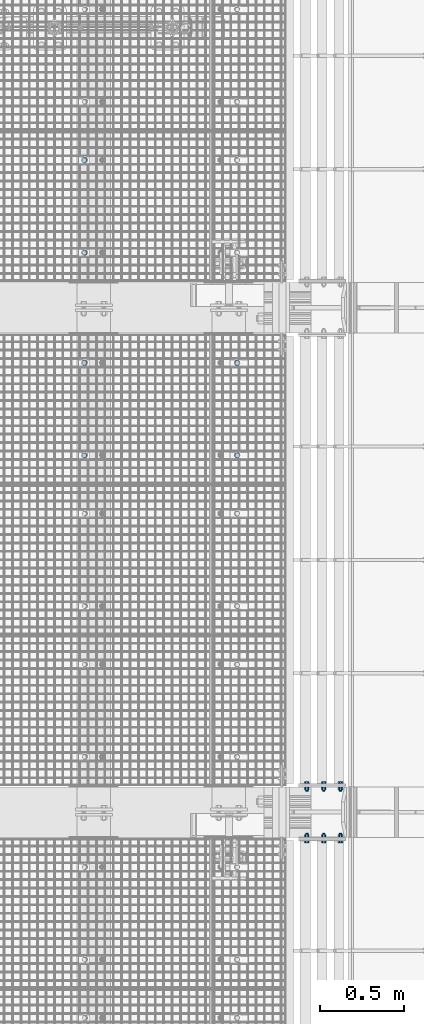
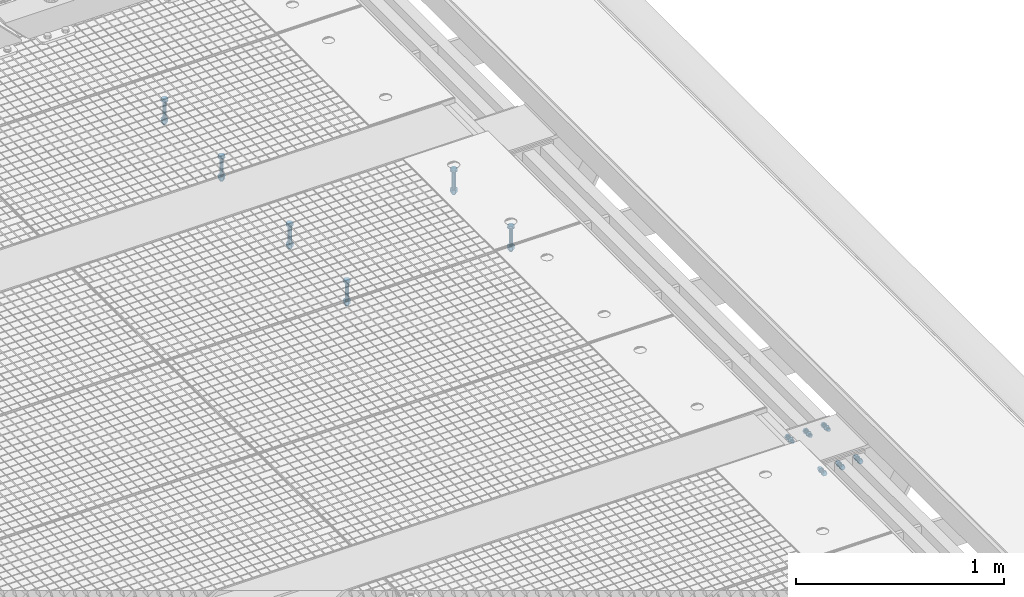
# One storey, part 53 of 1530: 5 mechanical fasteners.
"""IFC2X3 building model written with IfcOpenShell, lengths in millimetres."""

from ifc_helpers import new_model, si_unit, frame, origin_with_axes, place, context, subcontext, project, spatial, faceted_brep, source, transform, mapped, material, type_object, element, save


model = new_model("IFC2X3")

# Units and contexts
model_context = context("Model", 3, precision=1e-05, world=origin_with_axes())
body_context = subcontext(model_context, "Body", "Model", "MODEL_VIEW")
ifc_project = project(units=[si_unit("LENGTHUNIT", "METRE", prefix="MILLI"), si_unit("AREAUNIT", "SQUARE_METRE"), si_unit("VOLUMEUNIT", "CUBIC_METRE"), si_unit("MASSUNIT", "GRAM", prefix="KILO"), si_unit("TIMEUNIT", "SECOND"), si_unit("PLANEANGLEUNIT", "RADIAN"), si_unit("SOLIDANGLEUNIT", "STERADIAN"), si_unit("THERMODYNAMICTEMPERATUREUNIT", "DEGREE_CELSIUS"), si_unit("LUMINOUSINTENSITYUNIT", "LUMEN")], contexts=[model_context])

# Site, building, storey
site_placement = place(None, origin_with_axes())
site = spatial("IfcSite", under=ifc_project, at=site_placement, Name="Brattvåg", CompositionType="ELEMENT")
building_placement = place(site_placement, origin_with_axes())
building = spatial("IfcBuilding", under=site, at=building_placement, Name="Undefined", CompositionType="ELEMENT")
storey_placement = place(building_placement, origin_with_axes())
storey = spatial("IfcBuildingStorey", under=building, at=storey_placement, Name="Undefined", CompositionType="ELEMENT", Elevation=0.0)

# Mechanical fasteners
ifc_material = material(Name="8")
mechanical_fastener_type = type_object("IfcMechanicalFastenerType", Name="Bolt assembly")
shared_shape_1 = source(origin_with_axes(), body_context, "Body", "Brep", [
    faceted_brep([(17.3205080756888, -10.5, 0.0), (8.66025403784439, -10.5, 15.0), (-8.66025403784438, -10.5, 15.0), (-17.3205080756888, -10.5, 2.12115047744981e-15), (-8.66025403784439, -10.5, -15.0), (8.66025403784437, -10.5, -15.0), (8.66025403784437, 2.0, -15.0), (-8.66025403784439, 2.0, -15.0), (-17.3205080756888, 2.0, 2.12115047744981e-15), (-8.66025403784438, 2.0, 15.0), (8.66025403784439, 2.0, 15.0), (17.3205080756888, 2.0, 0.0), (10.0, 2.0, 0.0), (8.66025403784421, 2.0, 5.0000000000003), (4.9999999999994, 2.0, 8.66025403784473), (-1.03633598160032e-12, 2.0, 10.0), (-5.00000000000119, 2.0, 8.6602540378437), (-8.66025403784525, 2.0, 4.99999999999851), (-10.0, 2.0, -2.07267196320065e-12), (-8.66025403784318, 2.0, -5.00000000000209), (-4.99999999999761, 2.0, -8.66025403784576), (3.09790571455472e-12, 2.0, -10.0), (5.00000000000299, 2.0, -8.66025403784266), (8.66025403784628, 2.0, -4.99999999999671), (8.66025403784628, 142.0, -4.99999999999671), (5.00000000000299, 142.0, -8.66025403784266), (3.09790571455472e-12, 142.0, -10.0), (-4.99999999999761, 142.0, -8.66025403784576), (-8.66025403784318, 142.0, -5.00000000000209), (-10.0, 142.0, -2.07267196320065e-12), (-8.66025403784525, 142.0, 4.99999999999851), (-5.00000000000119, 142.0, 8.6602540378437), (-1.03633598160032e-12, 142.0, 10.0), (4.9999999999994, 142.0, 8.66025403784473), (8.66025403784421, 142.0, 5.0000000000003), (10.0, 142.0, 0.0), (18.5, 2.0, 0.0), (16.0214699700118, 2.0, 9.25000000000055), (9.2499999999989, 2.0, 16.0214699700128), (-1.9172215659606e-12, 2.0, 18.5), (-9.25000000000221, 2.0, 16.0214699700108), (-16.0214699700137, 2.0, 9.24999999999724), (-18.5, 2.0, -3.83444313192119e-12), (-16.0214699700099, 2.0, -9.25000000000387), (-9.24999999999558, 2.0, -16.0214699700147), (5.73112557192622e-12, 2.0, -18.5), (9.25000000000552, 2.0, -16.0214699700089), (16.0214699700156, 2.0, -9.24999999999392), (16.0214699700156, 5.0, -9.24999999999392), (9.25000000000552, 5.0, -16.0214699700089), (5.73112557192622e-12, 5.0, -18.5), (-9.24999999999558, 5.0, -16.0214699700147), (-16.0214699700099, 5.0, -9.25000000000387), (-18.5, 5.0, -3.83444313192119e-12), (-16.0214699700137, 5.0, 9.24999999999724), (-9.25000000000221, 5.0, 16.0214699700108), (-1.9172215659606e-12, 5.0, 18.5), (9.2499999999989, 5.0, 16.0214699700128), (16.0214699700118, 5.0, 9.25000000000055), (18.5, 5.0, 0.0), (18.5, 109.998931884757, 0.0), (16.0214699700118, 109.998931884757, 9.25000000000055), (9.2499999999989, 109.998931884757, 16.0214699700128), (-1.9172215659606e-12, 109.998931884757, 18.5), (-9.25000000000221, 109.998931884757, 16.0214699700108), (-16.0214699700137, 109.998931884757, 9.24999999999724), (-18.5, 109.998931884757, -3.83444313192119e-12), (-16.0214699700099, 109.998931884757, -9.25000000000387), (-9.24999999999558, 109.998931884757, -16.0214699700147), (5.73112557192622e-12, 109.998931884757, -18.5), (9.25000000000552, 109.998931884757, -16.0214699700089), (16.0214699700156, 109.998931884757, -9.24999999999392), (16.0214699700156, 112.998931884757, -9.24999999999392), (9.25000000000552, 112.998931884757, -16.0214699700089), (5.73112557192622e-12, 112.998931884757, -18.5), (-9.24999999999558, 112.998931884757, -16.0214699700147), (-16.0214699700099, 112.998931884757, -9.25000000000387), (-18.5, 112.998931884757, -3.83444313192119e-12), (-16.0214699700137, 112.998931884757, 9.24999999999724), (-9.25000000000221, 112.998931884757, 16.0214699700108), (-1.9172215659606e-12, 112.998931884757, 18.5), (9.2499999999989, 112.998931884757, 16.0214699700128), (16.0214699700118, 112.998931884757, 9.25000000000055), (18.5, 112.998931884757, 0.0), (17.3205080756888, 112.998931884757, 0.0), (8.66025403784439, 112.998931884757, 15.0), (-8.66025403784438, 112.998931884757, 15.0), (-17.3205080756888, 112.998931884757, 2.12115047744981e-15), (-8.66025403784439, 112.998931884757, -15.0), (8.66025403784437, 112.998931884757, -15.0), (8.66025403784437, 130.998931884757, -15.0), (-8.66025403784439, 130.998931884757, -15.0), (-17.3205080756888, 130.998931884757, 2.12115047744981e-15), (-8.66025403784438, 130.998931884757, 15.0), (8.66025403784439, 130.998931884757, 15.0), (17.3205080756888, 130.998931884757, 0.0)], [[[0, 1, 2, 3, 4, 5]], [[6, 7, 8, 9, 10, 11]], [[0, 11, 10, 1]], [[1, 10, 9, 2]], [[2, 9, 8, 3]], [[3, 8, 7, 4]], [[4, 7, 6, 5]], [[5, 6, 11, 0]], [[12, 13, 14, 15, 16, 17, 18, 19, 20, 21, 22, 23]], [[24, 25, 26, 27, 28, 29, 30, 31, 32, 33, 34, 35]], [[12, 35, 34, 13]], [[13, 34, 33, 14]], [[14, 33, 32, 15]], [[15, 32, 31, 16]], [[16, 31, 30, 17]], [[17, 30, 29, 18]], [[18, 29, 28, 19]], [[19, 28, 27, 20]], [[20, 27, 26, 21]], [[21, 26, 25, 22]], [[22, 25, 24, 23]], [[23, 24, 35, 12]], [[36, 37, 38, 39, 40, 41, 42, 43, 44, 45, 46, 47]], [[48, 49, 50, 51, 52, 53, 54, 55, 56, 57, 58, 59]], [[36, 59, 58, 37]], [[37, 58, 57, 38]], [[38, 57, 56, 39]], [[39, 56, 55, 40]], [[40, 55, 54, 41]], [[41, 54, 53, 42]], [[42, 53, 52, 43]], [[43, 52, 51, 44]], [[44, 51, 50, 45]], [[45, 50, 49, 46]], [[46, 49, 48, 47]], [[47, 48, 59, 36]], [[60, 61, 62, 63, 64, 65, 66, 67, 68, 69, 70, 71]], [[72, 73, 74, 75, 76, 77, 78, 79, 80, 81, 82, 83]], [[60, 83, 82, 61]], [[61, 82, 81, 62]], [[62, 81, 80, 63]], [[63, 80, 79, 64]], [[64, 79, 78, 65]], [[65, 78, 77, 66]], [[66, 77, 76, 67]], [[67, 76, 75, 68]], [[68, 75, 74, 69]], [[69, 74, 73, 70]], [[70, 73, 72, 71]], [[71, 72, 83, 60]], [[84, 85, 86, 87, 88, 89]], [[90, 91, 92, 93, 94, 95]], [[84, 95, 94, 85]], [[85, 94, 93, 86]], [[86, 93, 92, 87]], [[87, 92, 91, 88]], [[88, 91, 90, 89]], [[89, 90, 95, 84]]]),
])
for number, where, z_axis, x_axis, name in (
    (1, (15696.2016601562, 6327.99964141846, -25.0), (-1.0, 1.99999855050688e-09, 0.0), (0.0, 1.0, 0.0), "Bolt assembly"),
    (2, (16607.7533454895, 5122.00118255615, -25.0), (-1.0, 1.99999855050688e-09, 0.0), (0.0, 1.0, 0.0), "Bolt assembly"),
    (3, (15696.2016601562, 5121.99964141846, -25.0), (-1.0, 1.99999855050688e-09, 0.0), (0.0, 1.0, 0.0), "Bolt assembly"),
):
    element("IfcMechanicalFastener", number, at=place(storey_placement, frame(where, z_axis=z_axis, x_axis=x_axis)), inside=storey, type_object=mechanical_fastener_type, material=ifc_material, Name=name, NominalDiameter=20.0, NominalLength=140.0, context=body_context, shape_type="MappedRepresentation", body=[
        mapped(shared_shape_1, transform((0.0, 0.0, 0.0))),
        mapped(shared_shape_1, transform((549.999999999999, 0.0, 0.0))),
    ])
shared_shape_2 = source(origin_with_axes(), body_context, "Body", "Brep", [
    faceted_brep([(13.856406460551, -12.999526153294, 0.0), (6.92820323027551, -12.999526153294, 12.0), (-6.92820323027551, -12.999526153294, 12.0), (-13.856406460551, -12.999526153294, 1.69692038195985e-15), (-6.92820323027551, -12.999526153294, -12.0), (6.9282032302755, -12.999526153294, -12.0), (6.9282032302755, -2.99952615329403, -12.0), (-6.92820323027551, -2.99952615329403, -12.0), (-13.856406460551, -2.99952615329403, 1.69692038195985e-15), (-6.92820323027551, -2.99952615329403, 12.0), (6.92820323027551, -2.99952615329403, 12.0), (13.856406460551, -2.99952615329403, 0.0), (8.0, -2.99952615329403, 0.0), (6.92820323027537, -2.99952615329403, 4.00000000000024), (3.99999999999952, -2.99952615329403, 6.92820323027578), (-8.29068785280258e-13, -2.99952615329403, 8.0), (-4.00000000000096, -2.99952615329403, 6.92820323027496), (-6.9282032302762, -2.99952615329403, 3.99999999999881), (-8.0, -2.99952615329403, -1.65813757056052e-12), (-6.92820323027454, -2.99952615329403, -4.00000000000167), (-3.99999999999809, -2.99952615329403, -6.92820323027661), (2.47832457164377e-12, -2.99952615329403, -8.0), (4.00000000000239, -2.99952615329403, -6.92820323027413), (6.92820323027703, -2.99952615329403, -3.99999999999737), (6.92820323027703, 47.000473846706, -3.99999999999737), (4.00000000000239, 47.000473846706, -6.92820323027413), (2.47832457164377e-12, 47.000473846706, -8.0), (-3.99999999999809, 47.000473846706, -6.92820323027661), (-6.92820323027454, 47.000473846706, -4.00000000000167), (-8.0, 47.000473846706, -1.65813757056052e-12), (-6.9282032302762, 47.000473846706, 3.99999999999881), (-4.00000000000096, 47.000473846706, 6.92820323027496), (-8.29068785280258e-13, 47.000473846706, 8.0), (3.99999999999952, 47.000473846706, 6.92820323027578), (6.92820323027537, 47.000473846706, 4.00000000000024), (8.0, 47.000473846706, 0.0), (15.0, -2.99952615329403, 0.0), (12.9903810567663, -2.99952615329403, 7.50000000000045), (7.4999999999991, -2.99952615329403, 12.9903810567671), (-1.55450397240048e-12, -2.99952615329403, 15.0), (-7.50000000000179, -2.99952615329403, 12.9903810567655), (-12.9903810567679, -2.99952615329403, 7.49999999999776), (-15.0, -2.99952615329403, -3.10900794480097e-12), (-12.9903810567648, -2.99952615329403, -7.50000000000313), (-7.49999999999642, -2.99952615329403, -12.9903810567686), (4.64685857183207e-12, -2.99952615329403, -15.0), (7.50000000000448, -2.99952615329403, -12.990381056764), (12.9903810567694, -2.99952615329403, -7.49999999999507), (12.9903810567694, 0.000473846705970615, -7.49999999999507), (7.50000000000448, 0.000473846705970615, -12.990381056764), (4.64685857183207e-12, 0.000473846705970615, -15.0), (-7.49999999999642, 0.000473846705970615, -12.9903810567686), (-12.9903810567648, 0.000473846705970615, -7.50000000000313), (-15.0, 0.000473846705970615, -3.10900794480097e-12), (-12.9903810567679, 0.000473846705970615, 7.49999999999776), (-7.50000000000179, 0.000473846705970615, 12.9903810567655), (-1.55450397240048e-12, 0.000473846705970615, 15.0), (7.4999999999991, 0.000473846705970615, 12.9903810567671), (12.9903810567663, 0.000473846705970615, 7.50000000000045), (15.0, 0.000473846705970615, 0.0), (15.0, 20.000473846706, 0.0), (12.9903810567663, 20.000473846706, 7.50000000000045), (7.4999999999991, 20.000473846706, 12.9903810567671), (-1.55450397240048e-12, 20.000473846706, 15.0), (-7.50000000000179, 20.000473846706, 12.9903810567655), (-12.9903810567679, 20.000473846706, 7.49999999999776), (-15.0, 20.000473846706, -3.10900794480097e-12), (-12.9903810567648, 20.000473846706, -7.50000000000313), (-7.49999999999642, 20.000473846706, -12.9903810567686), (4.64685857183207e-12, 20.000473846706, -15.0), (7.50000000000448, 20.000473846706, -12.990381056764), (12.9903810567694, 20.000473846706, -7.49999999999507), (12.9903810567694, 23.000473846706, -7.49999999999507), (7.50000000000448, 23.000473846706, -12.990381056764), (4.64685857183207e-12, 23.000473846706, -15.0), (-7.49999999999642, 23.000473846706, -12.9903810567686), (-12.9903810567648, 23.000473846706, -7.50000000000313), (-15.0, 23.000473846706, -3.10900794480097e-12), (-12.9903810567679, 23.000473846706, 7.49999999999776), (-7.50000000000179, 23.000473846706, 12.9903810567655), (-1.55450397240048e-12, 23.000473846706, 15.0), (7.4999999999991, 23.000473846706, 12.9903810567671), (12.9903810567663, 23.000473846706, 7.50000000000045), (15.0, 23.000473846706, 0.0), (13.856406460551, 23.000473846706, 0.0), (6.92820323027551, 23.000473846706, 12.0), (-6.92820323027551, 23.000473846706, 12.0), (-13.856406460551, 23.000473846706, 1.69692038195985e-15), (-6.92820323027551, 23.000473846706, -12.0), (6.9282032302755, 23.000473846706, -12.0), (6.9282032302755, 37.8004740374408, -12.0), (-6.92820323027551, 37.8004740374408, -12.0), (-13.856406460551, 37.8004740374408, 1.69692038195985e-15), (-6.92820323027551, 37.8004740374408, 12.0), (6.92820323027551, 37.8004740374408, 12.0), (13.856406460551, 37.8004740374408, 0.0)], [[[0, 1, 2, 3, 4, 5]], [[6, 7, 8, 9, 10, 11]], [[0, 11, 10, 1]], [[1, 10, 9, 2]], [[2, 9, 8, 3]], [[3, 8, 7, 4]], [[4, 7, 6, 5]], [[5, 6, 11, 0]], [[12, 13, 14, 15, 16, 17, 18, 19, 20, 21, 22, 23]], [[24, 25, 26, 27, 28, 29, 30, 31, 32, 33, 34, 35]], [[12, 35, 34, 13]], [[13, 34, 33, 14]], [[14, 33, 32, 15]], [[15, 32, 31, 16]], [[16, 31, 30, 17]], [[17, 30, 29, 18]], [[18, 29, 28, 19]], [[19, 28, 27, 20]], [[20, 27, 26, 21]], [[21, 26, 25, 22]], [[22, 25, 24, 23]], [[23, 24, 35, 12]], [[36, 37, 38, 39, 40, 41, 42, 43, 44, 45, 46, 47]], [[48, 49, 50, 51, 52, 53, 54, 55, 56, 57, 58, 59]], [[36, 59, 58, 37]], [[37, 58, 57, 38]], [[38, 57, 56, 39]], [[39, 56, 55, 40]], [[40, 55, 54, 41]], [[41, 54, 53, 42]], [[42, 53, 52, 43]], [[43, 52, 51, 44]], [[44, 51, 50, 45]], [[45, 50, 49, 46]], [[46, 49, 48, 47]], [[47, 48, 59, 36]], [[60, 61, 62, 63, 64, 65, 66, 67, 68, 69, 70, 71]], [[72, 73, 74, 75, 76, 77, 78, 79, 80, 81, 82, 83]], [[60, 83, 82, 61]], [[61, 82, 81, 62]], [[62, 81, 80, 63]], [[63, 80, 79, 64]], [[64, 79, 78, 65]], [[65, 78, 77, 66]], [[66, 77, 76, 67]], [[67, 76, 75, 68]], [[68, 75, 74, 69]], [[69, 74, 73, 70]], [[70, 73, 72, 71]], [[71, 72, 83, 60]], [[84, 85, 86, 87, 88, 89]], [[90, 91, 92, 93, 94, 95]], [[84, 95, 94, 85]], [[85, 94, 93, 86]], [[86, 93, 92, 87]], [[87, 92, 91, 88]], [[88, 91, 90, 89]], [[89, 90, 95, 84]]]),
    faceted_brep([(9.0, 0.100473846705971, 0.0), (7.79422863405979, 0.100473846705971, 4.50000000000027), (4.49999999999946, 0.100473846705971, 7.79422863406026), (-9.3270238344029e-13, 0.100473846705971, 9.0), (-4.50000000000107, 0.100473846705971, 7.79422863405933), (-7.79422863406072, 0.100473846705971, 4.49999999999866), (-9.0, 0.100473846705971, -1.86540476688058e-12), (-7.79422863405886, 0.100473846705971, -4.50000000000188), (-4.49999999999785, 0.100473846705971, -7.79422863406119), (2.78811514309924e-12, 0.100473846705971, -9.0), (4.50000000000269, 0.100473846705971, -7.7942286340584), (7.79422863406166, 0.100473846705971, -4.49999999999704), (7.79422863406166, 10.100473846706, -4.49999999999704), (4.50000000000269, 10.100473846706, -7.7942286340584), (2.78811514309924e-12, 10.100473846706, -9.0), (-4.49999999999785, 10.100473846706, -7.79422863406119), (-7.79422863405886, 10.100473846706, -4.50000000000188), (-9.0, 10.100473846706, -1.86540476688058e-12), (-7.79422863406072, 10.100473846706, 4.49999999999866), (-4.50000000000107, 10.100473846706, 7.79422863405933), (-9.3270238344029e-13, 10.100473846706, 9.0), (4.49999999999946, 10.100473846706, 7.79422863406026), (7.79422863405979, 10.100473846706, 4.50000000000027), (9.0, 10.100473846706, 0.0), (9.0, 9.90047384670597, 0.0), (7.79422863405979, 9.90047384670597, 4.50000000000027), (4.49999999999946, 9.90047384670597, 7.79422863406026), (-9.3270238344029e-13, 9.90047384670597, 9.0), (-4.50000000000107, 9.90047384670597, 7.79422863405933), (-7.79422863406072, 9.90047384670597, 4.49999999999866), (-9.0, 9.90047384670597, -1.86540476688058e-12), (-7.79422863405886, 9.90047384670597, -4.50000000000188), (-4.49999999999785, 9.90047384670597, -7.79422863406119), (2.78811514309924e-12, 9.90047384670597, -9.0), (4.50000000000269, 9.90047384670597, -7.7942286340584), (7.79422863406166, 9.90047384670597, -4.49999999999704), (7.79422863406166, 20.000473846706, -4.49999999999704), (4.50000000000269, 20.000473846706, -7.7942286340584), (2.78811514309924e-12, 20.000473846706, -9.0), (-4.49999999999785, 20.000473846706, -7.79422863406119), (-7.79422863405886, 20.000473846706, -4.50000000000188), (-9.0, 20.000473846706, -1.86540476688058e-12), (-7.79422863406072, 20.000473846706, 4.49999999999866), (-4.50000000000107, 20.000473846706, 7.79422863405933), (-9.3270238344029e-13, 20.000473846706, 9.0), (4.49999999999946, 20.000473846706, 7.79422863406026), (7.79422863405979, 20.000473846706, 4.50000000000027), (9.0, 20.000473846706, 0.0)], [[[0, 1, 2, 3, 4, 5, 6, 7, 8, 9, 10, 11]], [[12, 13, 14, 15, 16, 17, 18, 19, 20, 21, 22, 23]], [[0, 23, 22, 1]], [[1, 22, 21, 2]], [[2, 21, 20, 3]], [[3, 20, 19, 4]], [[4, 19, 18, 5]], [[5, 18, 17, 6]], [[6, 17, 16, 7]], [[7, 16, 15, 8]], [[8, 15, 14, 9]], [[9, 14, 13, 10]], [[10, 13, 12, 11]], [[11, 12, 23, 0]], [[24, 25, 26, 27, 28, 29, 30, 31, 32, 33, 34, 35]], [[36, 37, 38, 39, 40, 41, 42, 43, 44, 45, 46, 47]], [[24, 47, 46, 25]], [[25, 46, 45, 26]], [[26, 45, 44, 27]], [[27, 44, 43, 28]], [[28, 43, 42, 29]], [[29, 42, 41, 30]], [[30, 41, 40, 31]], [[31, 40, 39, 32]], [[32, 39, 38, 33]], [[33, 38, 37, 34]], [[34, 37, 36, 35]], [[35, 36, 47, 24]]]),
])
mechanical_fastener_1_placement = place(storey_placement, frame((17022.0033007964, 3170.00288436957, -225.003311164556), z_axis=(0.0, 0.0, -1.0), x_axis=(1.0, 0.0, 0.0)))
element("IfcMechanicalFastener", 4, at=mechanical_fastener_1_placement, inside=storey, type_object=mechanical_fastener_type, material=ifc_material, Name="Bolt assembly", NominalDiameter=16.0, NominalLength=50.0, context=body_context, shape_type="MappedRepresentation", body=[
    mapped(shared_shape_2, transform((0.0, 0.0, 0.0))),
    mapped(shared_shape_2, transform((100.0, 0.0, 0.0))),
    mapped(shared_shape_2, transform((200.0, 0.0, 0.0))),
])
shared_shape_3 = source(origin_with_axes(), body_context, "Body", "Brep", [
    faceted_brep([(13.856406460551, -13.0, 0.0), (6.92820323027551, -13.0, 12.0), (-6.92820323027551, -13.0, 12.0), (-13.856406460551, -13.0, 1.69692038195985e-15), (-6.92820323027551, -13.0, -12.0), (6.9282032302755, -13.0, -12.0), (6.9282032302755, -3.0, -12.0), (-6.92820323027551, -3.0, -12.0), (-13.856406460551, -3.0, 1.69692038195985e-15), (-6.92820323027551, -3.0, 12.0), (6.92820323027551, -3.0, 12.0), (13.856406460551, -3.0, 0.0), (8.0, -3.0, 0.0), (6.92820323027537, -3.0, 4.00000000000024), (3.99999999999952, -3.0, 6.92820323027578), (-8.29068785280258e-13, -3.0, 8.0), (-4.00000000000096, -3.0, 6.92820323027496), (-6.9282032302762, -3.0, 3.99999999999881), (-8.0, -3.0, -1.65813757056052e-12), (-6.92820323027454, -3.0, -4.00000000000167), (-3.99999999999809, -3.0, -6.92820323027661), (2.47832457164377e-12, -3.0, -8.0), (4.00000000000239, -3.0, -6.92820323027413), (6.92820323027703, -3.0, -3.99999999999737), (6.92820323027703, 47.0, -3.99999999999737), (4.00000000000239, 47.0, -6.92820323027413), (2.47832457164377e-12, 47.0, -8.0), (-3.99999999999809, 47.0, -6.92820323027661), (-6.92820323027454, 47.0, -4.00000000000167), (-8.0, 47.0, -1.65813757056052e-12), (-6.9282032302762, 47.0, 3.99999999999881), (-4.00000000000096, 47.0, 6.92820323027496), (-8.29068785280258e-13, 47.0, 8.0), (3.99999999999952, 47.0, 6.92820323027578), (6.92820323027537, 47.0, 4.00000000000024), (8.0, 47.0, 0.0), (15.0, -3.0, 0.0), (12.9903810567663, -3.0, 7.50000000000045), (7.4999999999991, -3.0, 12.9903810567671), (-1.55450397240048e-12, -3.0, 15.0), (-7.50000000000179, -3.0, 12.9903810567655), (-12.9903810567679, -3.0, 7.49999999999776), (-15.0, -3.0, -3.10900794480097e-12), (-12.9903810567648, -3.0, -7.50000000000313), (-7.49999999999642, -3.0, -12.9903810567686), (4.64685857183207e-12, -3.0, -15.0), (7.50000000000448, -3.0, -12.990381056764), (12.9903810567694, -3.0, -7.49999999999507), (12.9903810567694, 0.0, -7.49999999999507), (7.50000000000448, 0.0, -12.990381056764), (0.0, 0.0, -15.0), (-7.49999999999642, 0.0, -12.9903810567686), (-12.9903810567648, 0.0, -7.50000000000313), (-15.0, 0.0, -3.10900794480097e-12), (-12.9903810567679, 0.0, 7.49999999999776), (-7.50000000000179, 0.0, 12.9903810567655), (0.0, 0.0, 15.0), (7.4999999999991, 0.0, 12.9903810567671), (12.9903810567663, 0.0, 7.50000000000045), (15.0, 0.0, 0.0), (15.0, 20.0, 0.0), (12.9903810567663, 20.0, 7.50000000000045), (7.4999999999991, 20.0, 12.9903810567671), (-1.55450397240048e-12, 20.0, 15.0), (-7.50000000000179, 20.0, 12.9903810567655), (-12.9903810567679, 20.0, 7.49999999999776), (-15.0, 20.0, -3.10900794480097e-12), (-12.9903810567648, 20.0, -7.50000000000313), (-7.49999999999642, 20.0, -12.9903810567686), (4.64685857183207e-12, 20.0, -15.0), (7.50000000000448, 20.0, -12.990381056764), (12.9903810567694, 20.0, -7.49999999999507), (12.9903810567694, 23.0, -7.49999999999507), (7.50000000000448, 23.0, -12.990381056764), (4.64685857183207e-12, 23.0, -15.0), (-7.49999999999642, 23.0, -12.9903810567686), (-12.9903810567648, 23.0, -7.50000000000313), (-15.0, 23.0, -3.10900794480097e-12), (-12.9903810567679, 23.0, 7.49999999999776), (-7.50000000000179, 23.0, 12.9903810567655), (-1.55450397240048e-12, 23.0, 15.0), (7.4999999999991, 23.0, 12.9903810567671), (12.9903810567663, 23.0, 7.50000000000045), (15.0, 23.0, 0.0), (13.856406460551, 23.0, 0.0), (6.92820323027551, 23.0, 12.0), (-6.92820323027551, 23.0, 12.0), (-13.856406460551, 23.0, 1.69692038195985e-15), (-6.92820323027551, 23.0, -12.0), (6.9282032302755, 23.0, -12.0), (6.9282032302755, 37.8000001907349, -12.0), (-6.92820323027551, 37.8000001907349, -12.0), (-13.856406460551, 37.8000001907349, 1.69692038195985e-15), (-6.92820323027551, 37.8000001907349, 12.0), (6.92820323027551, 37.8000001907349, 12.0), (13.856406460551, 37.8000001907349, 0.0)], [[[0, 1, 2, 3, 4, 5]], [[6, 7, 8, 9, 10, 11]], [[0, 11, 10, 1]], [[1, 10, 9, 2]], [[2, 9, 8, 3]], [[3, 8, 7, 4]], [[4, 7, 6, 5]], [[5, 6, 11, 0]], [[12, 13, 14, 15, 16, 17, 18, 19, 20, 21, 22, 23]], [[24, 25, 26, 27, 28, 29, 30, 31, 32, 33, 34, 35]], [[12, 35, 34, 13]], [[13, 34, 33, 14]], [[14, 33, 32, 15]], [[15, 32, 31, 16]], [[16, 31, 30, 17]], [[17, 30, 29, 18]], [[18, 29, 28, 19]], [[19, 28, 27, 20]], [[20, 27, 26, 21]], [[21, 26, 25, 22]], [[22, 25, 24, 23]], [[23, 24, 35, 12]], [[36, 37, 38, 39, 40, 41, 42, 43, 44, 45, 46, 47]], [[48, 49, 50, 51, 52, 53, 54, 55, 56, 57, 58, 59]], [[36, 59, 58, 37]], [[37, 58, 57, 38]], [[38, 57, 56, 39]], [[39, 56, 55, 40]], [[40, 55, 54, 41]], [[41, 54, 53, 42]], [[42, 53, 52, 43]], [[43, 52, 51, 44]], [[44, 51, 50, 45]], [[45, 50, 49, 46]], [[46, 49, 48, 47]], [[47, 48, 59, 36]], [[60, 61, 62, 63, 64, 65, 66, 67, 68, 69, 70, 71]], [[72, 73, 74, 75, 76, 77, 78, 79, 80, 81, 82, 83]], [[60, 83, 82, 61]], [[61, 82, 81, 62]], [[62, 81, 80, 63]], [[63, 80, 79, 64]], [[64, 79, 78, 65]], [[65, 78, 77, 66]], [[66, 77, 76, 67]], [[67, 76, 75, 68]], [[68, 75, 74, 69]], [[69, 74, 73, 70]], [[70, 73, 72, 71]], [[71, 72, 83, 60]], [[84, 85, 86, 87, 88, 89]], [[90, 91, 92, 93, 94, 95]], [[84, 95, 94, 85]], [[85, 94, 93, 86]], [[86, 93, 92, 87]], [[87, 92, 91, 88]], [[88, 91, 90, 89]], [[89, 90, 95, 84]]]),
    faceted_brep([(9.0, 0.1, 0.0), (7.79422863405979, 0.1, 4.50000000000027), (4.49999999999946, 0.1, 7.79422863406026), (-9.3270238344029e-13, 0.1, 9.0), (-4.50000000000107, 0.1, 7.79422863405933), (-7.79422863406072, 0.1, 4.49999999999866), (-9.0, 0.1, -1.86540476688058e-12), (-7.79422863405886, 0.1, -4.50000000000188), (-4.49999999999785, 0.1, -7.79422863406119), (2.78811514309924e-12, 0.1, -9.0), (4.50000000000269, 0.1, -7.7942286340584), (7.79422863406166, 0.1, -4.49999999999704), (7.79422863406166, 10.1, -4.49999999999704), (4.50000000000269, 10.1, -7.7942286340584), (2.78811514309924e-12, 10.1, -9.0), (-4.49999999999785, 10.1, -7.79422863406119), (-7.79422863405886, 10.1, -4.50000000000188), (-9.0, 10.1, -1.86540476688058e-12), (-7.79422863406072, 10.1, 4.49999999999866), (-4.50000000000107, 10.1, 7.79422863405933), (-9.3270238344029e-13, 10.1, 9.0), (4.49999999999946, 10.1, 7.79422863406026), (7.79422863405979, 10.1, 4.50000000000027), (9.0, 10.1, 0.0), (9.0, 9.9, 0.0), (7.79422863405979, 9.9, 4.50000000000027), (4.49999999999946, 9.9, 7.79422863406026), (-9.3270238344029e-13, 9.9, 9.0), (-4.50000000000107, 9.9, 7.79422863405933), (-7.79422863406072, 9.9, 4.49999999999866), (-9.0, 9.9, -1.86540476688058e-12), (-7.79422863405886, 9.9, -4.50000000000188), (-4.49999999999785, 9.9, -7.79422863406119), (2.78811514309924e-12, 9.9, -9.0), (4.50000000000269, 9.9, -7.7942286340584), (7.79422863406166, 9.9, -4.49999999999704), (7.79422863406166, 20.0, -4.49999999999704), (4.50000000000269, 20.0, -7.7942286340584), (2.78811514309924e-12, 20.0, -9.0), (-4.49999999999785, 20.0, -7.79422863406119), (-7.79422863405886, 20.0, -4.50000000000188), (-9.0, 20.0, -1.86540476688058e-12), (-7.79422863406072, 20.0, 4.49999999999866), (-4.50000000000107, 20.0, 7.79422863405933), (-9.3270238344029e-13, 20.0, 9.0), (4.49999999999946, 20.0, 7.79422863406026), (7.79422863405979, 20.0, 4.50000000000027), (9.0, 20.0, 0.0)], [[[0, 1, 2, 3, 4, 5, 6, 7, 8, 9, 10, 11]], [[12, 13, 14, 15, 16, 17, 18, 19, 20, 21, 22, 23]], [[0, 23, 22, 1]], [[1, 22, 21, 2]], [[2, 21, 20, 3]], [[3, 20, 19, 4]], [[4, 19, 18, 5]], [[5, 18, 17, 6]], [[6, 17, 16, 7]], [[7, 16, 15, 8]], [[8, 15, 14, 9]], [[9, 14, 13, 10]], [[10, 13, 12, 11]], [[11, 12, 23, 0]], [[24, 25, 26, 27, 28, 29, 30, 31, 32, 33, 34, 35]], [[36, 37, 38, 39, 40, 41, 42, 43, 44, 45, 46, 47]], [[24, 47, 46, 25]], [[25, 46, 45, 26]], [[26, 45, 44, 27]], [[27, 44, 43, 28]], [[28, 43, 42, 29]], [[29, 42, 41, 30]], [[30, 41, 40, 31]], [[31, 40, 39, 32]], [[32, 39, 38, 33]], [[33, 38, 37, 34]], [[34, 37, 36, 35]], [[35, 36, 47, 24]]]),
])
mechanical_fastener_2_placement = place(storey_placement, frame((17022.0033007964, 2829.99711563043, -225.003311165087), z_axis=(0.0, 0.0, 1.0), x_axis=(1.0, 0.0, 0.0)))
element("IfcMechanicalFastener", 5, at=mechanical_fastener_2_placement, inside=storey, type_object=mechanical_fastener_type, material=ifc_material, Name="Bolt assembly", NominalDiameter=16.0, NominalLength=50.0, context=body_context, shape_type="MappedRepresentation", body=[
    mapped(shared_shape_3, transform((0.0, 0.0, 0.0))),
    mapped(shared_shape_3, transform((100.0, 0.0, 0.0))),
    mapped(shared_shape_3, transform((200.0, 0.0, 0.0))),
])

save(model, "model.ifc")
